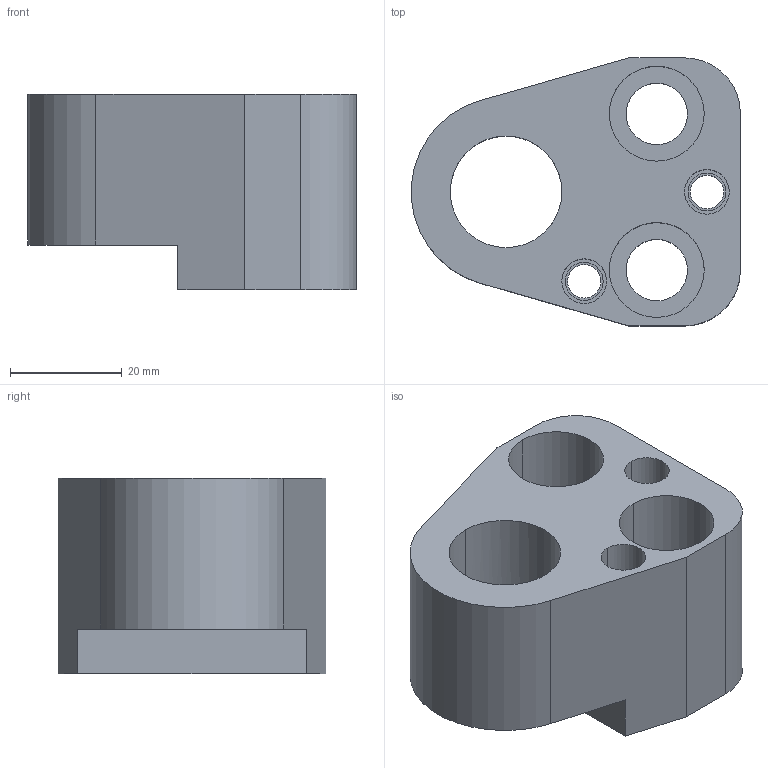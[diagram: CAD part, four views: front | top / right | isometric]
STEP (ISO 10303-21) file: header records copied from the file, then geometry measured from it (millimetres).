
FILE_DESCRIPTION(/* description */ (''),/* implementation_level */ '2;1');
FILE_NAME(/* name */ '3d_hap-fn20_04009_r00.stp',/* time_stamp */ '2011-01-10T14:14:58+09:00',/* author */ ('MISUMI'),/* organization */ (''),/* preprocessor_version */ 'ST-DEVELOPER v11',/* originating_system */ 'UGS - NX 5.0',/* authorisation */ '');
FILE_SCHEMA (('CONFIG_CONTROL_DESIGN'));
Length unit declared in the file: millimetre
Products named in the file (1): 3d_hap-fn20_04009_r00
Bounding box: 58.94 x 48 x 35 mm (x, y, z)
Volume: 50297.1 mm3; surface area: 15834 mm2
Topology: 1 solids, 1 shells, 42 faces, 104 edges, 69 vertices
Faces by surface type: cylinder 25, plane 15, cone 2
Entity records: 1382 total; most frequent: DIRECTION 242, CARTESIAN_POINT 221, ORIENTED_EDGE 208, EDGE_CURVE 104, AXIS2_PLACEMENT_3D 96, VERTEX_POINT 69, EDGE_LOOP 57, CIRCLE 53
